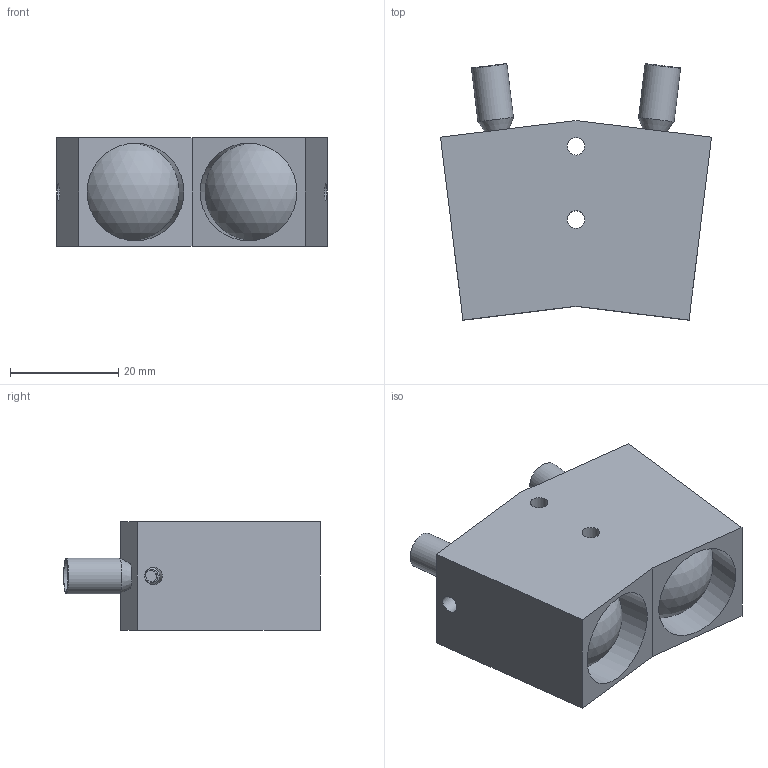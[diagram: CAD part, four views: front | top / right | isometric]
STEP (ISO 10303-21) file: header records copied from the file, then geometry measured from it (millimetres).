
FILE_DESCRIPTION((''),'2;1');
FILE_NAME('Q:\Konstruktion\E-Mail-Zeichnungen\STEP\KL-14.stp','2007-02-07T18:56:48',('GuentherB'),(''),'Autodesk Inventor 11','Autodesk Inventor 11','');
FILE_SCHEMA(('AUTOMOTIVE_DESIGN { 1 0 10303 214 1 1 1 1 }'));
Length unit declared in the file: millimetre
Products named in the file (1): Bauteil2
Bounding box: 49.97 x 47.33 x 20 mm (x, y, z)
Volume: 29314.9 mm3; surface area: 8609.8 mm2
Topology: 1 solids, 1 shells, 49 faces, 109 edges, 73 vertices
Faces by surface type: plane 29, cone 6, bspline 6, cylinder 6, sphere 2
Full cylindrical faces by diameter (mm): 4.5 x2, 6 x2, 6.6 x2
Entity records: 1307 total; most frequent: CARTESIAN_POINT 300, DIRECTION 200, ORIENTED_EDGE 166, EDGE_CURVE 83, EDGE_LOOP 82, AXIS2_PLACEMENT_3D 73, VERTEX_POINT 65, VECTOR 54
